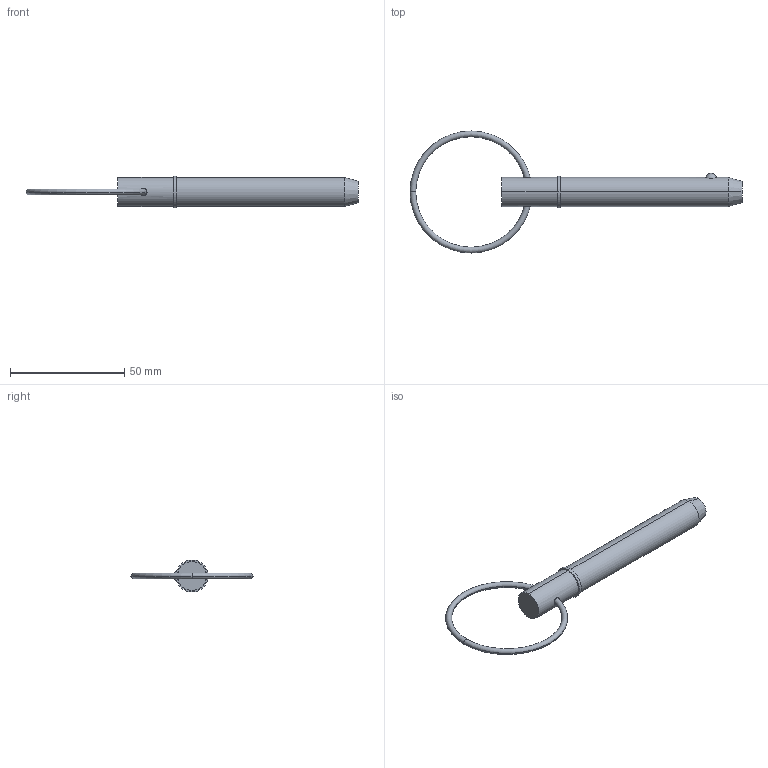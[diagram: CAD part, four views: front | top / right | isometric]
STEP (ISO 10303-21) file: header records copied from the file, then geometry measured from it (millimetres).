
FILE_DESCRIPTION (( 'STEP AP203' ), '1' );
FILE_NAME ('33016.W5025.step', '2024-11-07T11:09:05', ( '' ), ( '' ), 'SwSTEP 2.0', 'SolidWorks 2019', '' );
FILE_SCHEMA (( 'CONFIG_CONTROL_DESIGN' ));
Length unit declared in the file: millimetre
Products named in the file (3): 33016.W5025; Part2_33016.W5025; Part1_33016.W5025
Assembly tree (2 placements, depth 2):
  33016.W5025
    Part1_33016.W5025
    Part2_33016.W5025
Bounding box: 145.13 x 53.34 x 13.97 mm (x, y, z)
Volume: 13901 mm3; surface area: 5821.9 mm2
Topology: 2 solids, 2 shells, 22 faces, 43 edges, 26 vertices
Faces by surface type: torus 8, cylinder 6, plane 4, sphere 2, cone 2
Entity records: 1039 total; most frequent: CARTESIAN_POINT 262, DIRECTION 120, ORIENTED_EDGE 86, AXIS2_PLACEMENT_3D 56, EDGE_CURVE 43, CIRCLE 29, EDGE_LOOP 27, VERTEX_POINT 26
